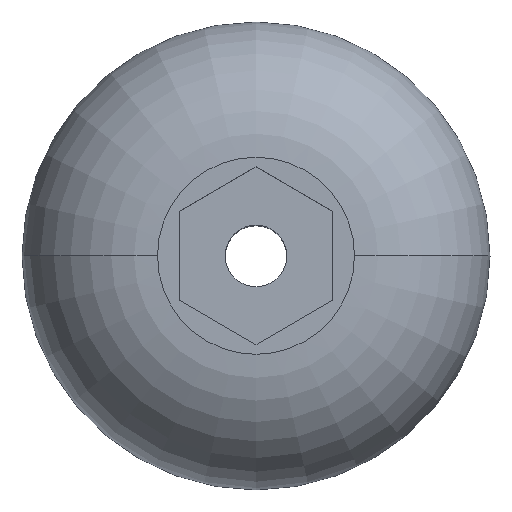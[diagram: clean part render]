
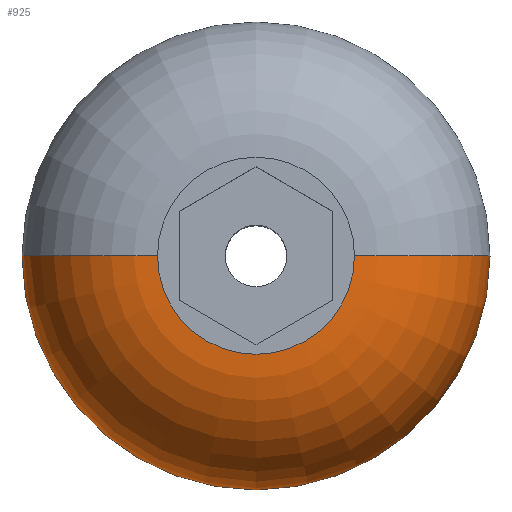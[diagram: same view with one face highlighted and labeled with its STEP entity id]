
A CAD part, top view. The second image highlights one B-rep face of the part: STEP entity #925.
In plain terms, the highlighted toroidal (fillet/blend) face has major radius 1.6 mm and minor radius 2.2 mm.
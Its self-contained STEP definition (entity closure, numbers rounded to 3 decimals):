
#17 = VERTEX_POINT ( 'NONE', #810 ) ;
#34 = TOROIDAL_SURFACE ( 'NONE', #507, 1.6, 2.2 ) ;
#49 = AXIS2_PLACEMENT_3D ( 'NONE', #1226, #1215, #1323 ) ;
#60 = CARTESIAN_POINT ( 'NONE',  ( 0., 0., 0. ) ) ;
#197 = CARTESIAN_POINT ( 'NONE',  ( 3.8, 0., 0. ) ) ;
#248 = AXIS2_PLACEMENT_3D ( 'NONE', #60, #467, #880 ) ;
#249 = CIRCLE ( 'NONE', #248, 3.8 ) ;
#280 = VERTEX_POINT ( 'NONE', #438 ) ;
#334 = CARTESIAN_POINT ( 'NONE',  ( -3.8, 0., 0. ) ) ;
#363 = EDGE_CURVE ( 'NONE', #17, #280, #530, .T. ) ;
#364 = ORIENTED_EDGE ( 'NONE', *, *, #372, .F. ) ;
#372 = EDGE_CURVE ( 'NONE', #1010, #17, #622, .T. ) ;
#382 = DIRECTION ( 'NONE',  ( 0., -1., 0. ) ) ;
#416 = EDGE_LOOP ( 'NONE', ( #364, #858, #956, #1212 ) ) ;
#438 = CARTESIAN_POINT ( 'NONE',  ( 1.6, 0., 2.2 ) ) ;
#467 = DIRECTION ( 'NONE',  ( 0., 0., 1. ) ) ;
#480 = EDGE_CURVE ( 'NONE', #1010, #567, #249, .T. ) ;
#507 = AXIS2_PLACEMENT_3D ( 'NONE', #1272, #976, #656 ) ;
#530 = CIRCLE ( 'NONE', #765, 1.6 ) ;
#548 = FACE_OUTER_BOUND ( 'NONE', #416, .T. ) ;
#567 = VERTEX_POINT ( 'NONE', #197 ) ;
#583 = DIRECTION ( 'NONE',  ( 0., 0., -1. ) ) ;
#622 = CIRCLE ( 'NONE', #49, 2.2 ) ;
#656 = DIRECTION ( 'NONE',  ( 1., 0., 0. ) ) ;
#765 = AXIS2_PLACEMENT_3D ( 'NONE', #1334, #914, #1019 ) ;
#772 = CARTESIAN_POINT ( 'NONE',  ( 1.6, 0., 0. ) ) ;
#810 = CARTESIAN_POINT ( 'NONE',  ( -1.6, 0., 2.2 ) ) ;
#858 = ORIENTED_EDGE ( 'NONE', *, *, #480, .T. ) ;
#880 = DIRECTION ( 'NONE',  ( 1., 0., 0. ) ) ;
#914 = DIRECTION ( 'NONE',  ( 0., 0., 1. ) ) ;
#925 = ADVANCED_FACE ( 'NONE', ( #548 ), #34, .T. ) ;
#956 = ORIENTED_EDGE ( 'NONE', *, *, #1282, .T. ) ;
#976 = DIRECTION ( 'NONE',  ( 0., 0., 1. ) ) ;
#1010 = VERTEX_POINT ( 'NONE', #334 ) ;
#1019 = DIRECTION ( 'NONE',  ( 1., 0., 0. ) ) ;
#1152 = AXIS2_PLACEMENT_3D ( 'NONE', #772, #382, #583 ) ;
#1212 = ORIENTED_EDGE ( 'NONE', *, *, #363, .F. ) ;
#1215 = DIRECTION ( 'NONE',  ( 0., 1., 0. ) ) ;
#1223 = CIRCLE ( 'NONE', #1152, 2.2 ) ;
#1226 = CARTESIAN_POINT ( 'NONE',  ( -1.6, 0., 0. ) ) ;
#1272 = CARTESIAN_POINT ( 'NONE',  ( 0., 0., 0. ) ) ;
#1282 = EDGE_CURVE ( 'NONE', #567, #280, #1223, .T. ) ;
#1323 = DIRECTION ( 'NONE',  ( -1., 0., 0. ) ) ;
#1334 = CARTESIAN_POINT ( 'NONE',  ( 0., 0., 2.2 ) ) ;
